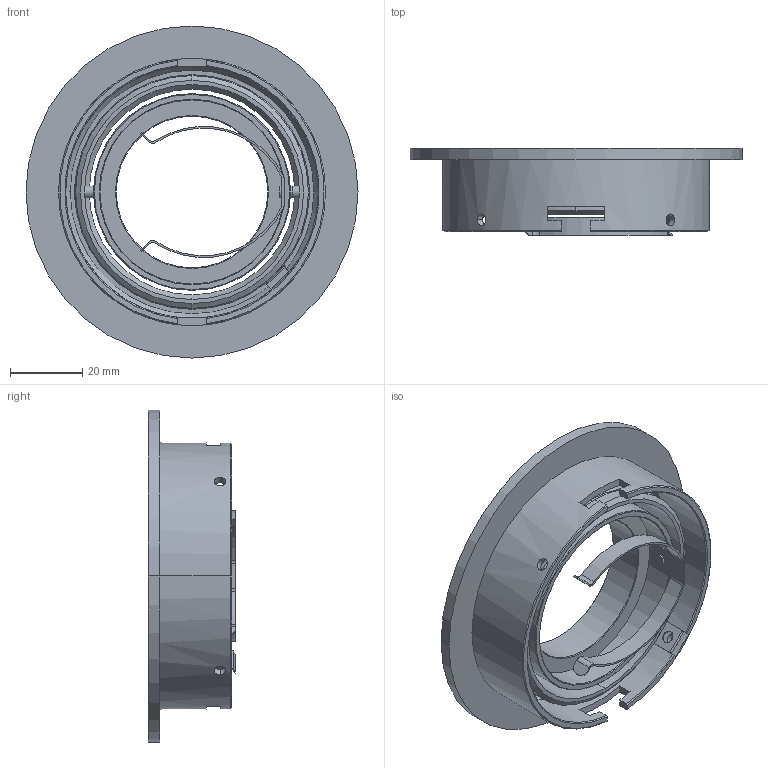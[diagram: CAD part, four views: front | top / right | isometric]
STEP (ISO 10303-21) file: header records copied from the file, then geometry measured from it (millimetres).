
FILE_DESCRIPTION(/* description */ (''),/* implementation_level */ '2;1');
FILE_NAME(/* name */ 'C:\Users\Franco Sartori E\Documents\FARO\DUPLICADO\Modelos\01_Digitalizados\1_3D_2D\1_COCOTTE\03_Publicación\43398.stp',/* time_stamp */ '2020-07-28T13:12:16+02:00',/* author */ ('Franco Sartori E'),/* organization */ (''),/* preprocessor_version */ 'ST-DEVELOPER v18',/* originating_system */ 'AutoCAD Mechanical',/* authorisation */ '');
FILE_SCHEMA (('AUTOMOTIVE_DESIGN { 1 0 10303 214 3 1 1 }'));
Length unit declared in the file: millimetre
Products named in the file (2): Product; 43398_43408 - RADON-412045-_3D_
Assembly tree (1 placements, depth 2):
  Product
    43398_43408 - RADON-412045-_3D_
Bounding box: 92 x 24.17 x 92 mm (x, y, z)
Volume: 40273.3 mm3; surface area: 36658.4 mm2
Topology: 7 solids, 9 shells, 168 faces, 448 edges, 290 vertices
Faces by surface type: cylinder 81, plane 60, cone 27
Entity records: 6708 total; most frequent: CARTESIAN_POINT 2430, DIRECTION 882, ORIENTED_EDGE 864, EDGE_CURVE 448, AXIS2_PLACEMENT_3D 336, VERTEX_POINT 290, LINE 210, VECTOR 210
